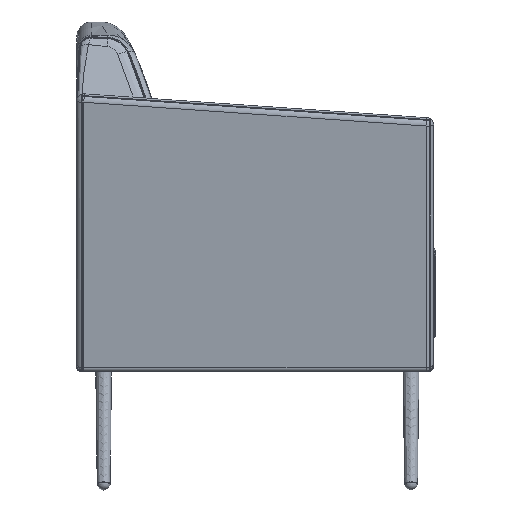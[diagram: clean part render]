
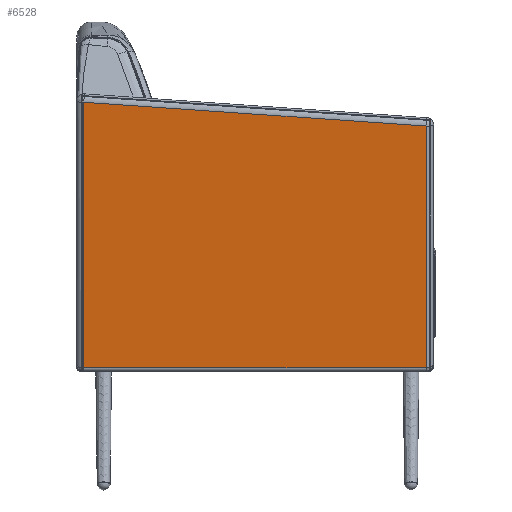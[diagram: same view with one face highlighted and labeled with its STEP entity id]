
A CAD part, left-side view. The second image highlights one B-rep face of the part: STEP entity #6528.
In plain terms, the highlighted planar face has unit normal (-0.993, 0, -0.119).
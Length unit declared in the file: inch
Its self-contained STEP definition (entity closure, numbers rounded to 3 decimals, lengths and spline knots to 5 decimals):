
#749=PLANE('',#7190);
#898=LINE('',#11670,#1144);
#914=LINE('',#12038,#1160);
#921=LINE('',#12069,#1167);
#923=LINE('',#12073,#1169);
#1144=VECTOR('',#8296,0.3937);
#1160=VECTOR('',#8398,0.3937);
#1167=VECTOR('',#8425,0.3937);
#1169=VECTOR('',#8431,0.3937);
#1542=FACE_OUTER_BOUND('',#2020,.T.);
#2020=EDGE_LOOP('',(#5074,#5075,#5076,#5077));
#2877=VERTEX_POINT('',#11580);
#2884=VERTEX_POINT('',#11625);
#2926=VERTEX_POINT('',#12033);
#2927=VERTEX_POINT('',#12037);
#3612=EDGE_CURVE('',#2884,#2877,#898,.T.);
#3670=EDGE_CURVE('',#2927,#2926,#914,.T.);
#3684=EDGE_CURVE('',#2926,#2884,#921,.T.);
#3686=EDGE_CURVE('',#2877,#2927,#923,.T.);
#5074=ORIENTED_EDGE('',*,*,#3684,.T.);
#5075=ORIENTED_EDGE('',*,*,#3612,.T.);
#5076=ORIENTED_EDGE('',*,*,#3686,.T.);
#5077=ORIENTED_EDGE('',*,*,#3670,.T.);
#6528=ADVANCED_FACE('',(#1542),#749,.F.);
#7190=AXIS2_PLACEMENT_3D('',#12072,#8429,#8430);
#8296=DIRECTION('',(0.,-1.,0.));
#8398=DIRECTION('',(-0.008,0.998,0.069));
#8425=DIRECTION('',(0.119,0.,-0.993));
#8429=DIRECTION('center_axis',(0.993,0.,
0.119));
#8430=DIRECTION('ref_axis',(0.119,0.,-0.993));
#8431=DIRECTION('',(-0.119,0.,0.993));
#11580=CARTESIAN_POINT('',(0.01832,-21.56007,7.69596));
#11625=CARTESIAN_POINT('',(0.01832,1.32693,7.69596));
#11670=CARTESIAN_POINT('',(0.01832,1.82693,7.69596));
#12033=CARTESIAN_POINT('',(-2.1088,1.32693,25.46033));
#12037=CARTESIAN_POINT('',(-1.91818,-21.56007,23.86838));
#12038=CARTESIAN_POINT('',(-2.10786,1.21404,25.45248));
#12069=CARTESIAN_POINT('',(-0.50083,1.32693,12.03156));
#12072=CARTESIAN_POINT('Origin',(0.04469,1.82693,7.47569));
#12073=CARTESIAN_POINT('',(-0.45109,-21.56007,11.61618));
